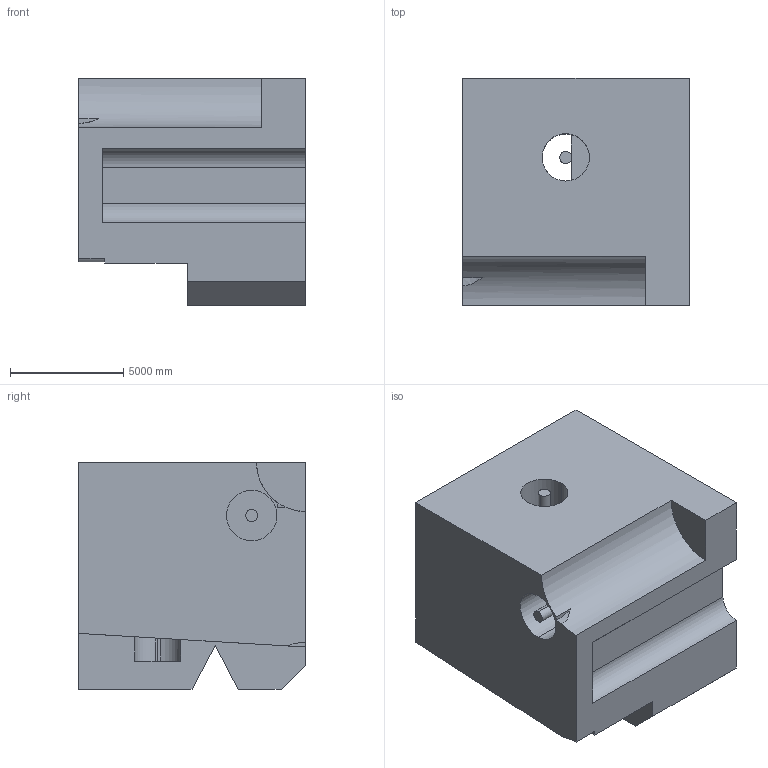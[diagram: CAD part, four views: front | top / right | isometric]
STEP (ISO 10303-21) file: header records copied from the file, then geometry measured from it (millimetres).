
FILE_DESCRIPTION (( 'STEP AP203' ), '1' );
FILE_NAME ('997.STEP', '2022-07-29T15:05:11', ( 'user' ), ( '' ), 'SwSTEP 2.0', 'SolidWorks 2021', '' );
FILE_SCHEMA (( 'CONFIG_CONTROL_DESIGN' ));
Length unit declared in the file: centimetre
Products named in the file (1): 997
Bounding box: 10000 x 10000 x 10000 mm (x, y, z)
Volume: 767689676007 mm3; surface area: 702499329.7 mm2
Topology: 1 solids, 1 shells, 40 faces, 111 edges, 74 vertices
Faces by surface type: plane 27, cylinder 13
Entity records: 1401 total; most frequent: CARTESIAN_POINT 279, ORIENTED_EDGE 222, DIRECTION 214, EDGE_CURVE 111, VECTOR 80, LINE 80, VERTEX_POINT 74, AXIS2_PLACEMENT_3D 67
